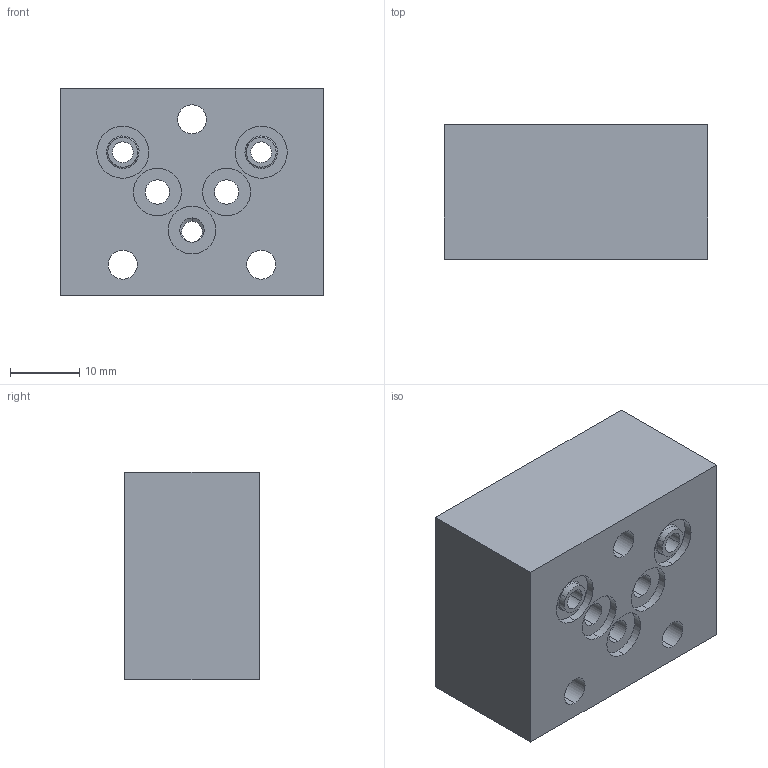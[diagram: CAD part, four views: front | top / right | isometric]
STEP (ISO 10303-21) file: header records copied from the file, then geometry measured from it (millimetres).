
FILE_DESCRIPTION (( 'STEP AP214' ), '1' );
FILE_NAME ('RNNSA03-PT.STEP', '2017-04-11T09:31:24', ( '' ), ( '' ), 'SwSTEP 2.0', 'SolidWorks 2016', '' );
FILE_SCHEMA (( 'AUTOMOTIVE_DESIGN' ));
Length unit declared in the file: millimetre
Products named in the file (1): RNNSA03-PT
Bounding box: 38 x 19.5 x 30 mm (x, y, z)
Volume: 20287.3 mm3; surface area: 6755.9 mm2
Topology: 1 solids, 1 shells, 71 faces, 162 edges, 104 vertices
Faces by surface type: cylinder 44, plane 21, torus 4, cone 2
Entity records: 2803 total; most frequent: DIRECTION 410, CARTESIAN_POINT 338, ORIENTED_EDGE 324, AXIS2_PLACEMENT_3D 176, EDGE_CURVE 162, VERTEX_POINT 104, CIRCLE 104, EDGE_LOOP 98
